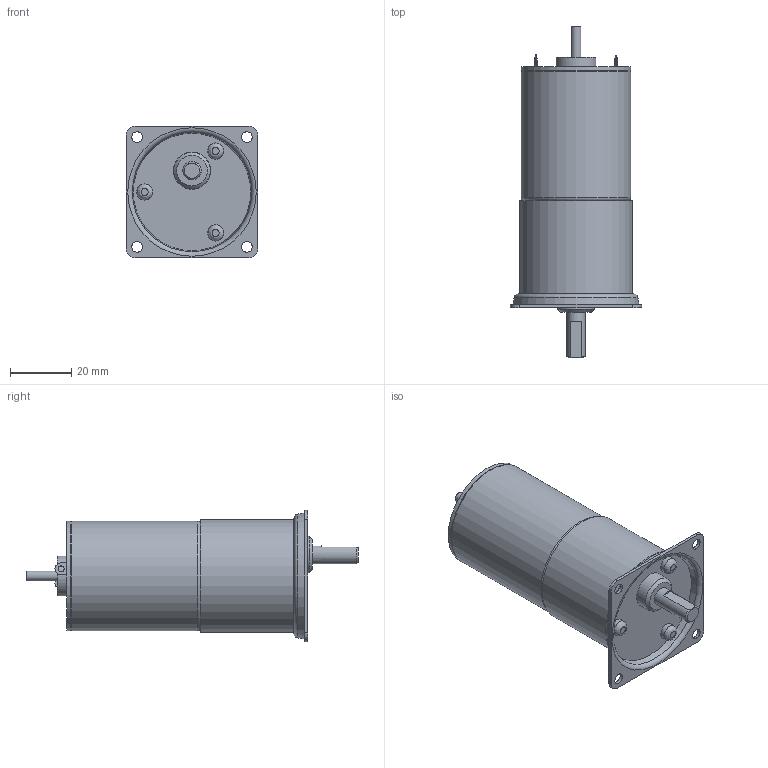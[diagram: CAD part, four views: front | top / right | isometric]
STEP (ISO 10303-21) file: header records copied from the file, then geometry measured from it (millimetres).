
FILE_DESCRIPTION((''),'2;1');
FILE_NAME('C:\Documents and Settings\SSEGAWA\デスクトップ\TP-3644L-PG-6.STP','2013-07-26T18:50:13',('SSEGAWA'),(''),'Autodesk Inventor 2010','Autodesk Inventor 2010','');
FILE_SCHEMA(('CONFIG_CONTROL_DESIGN'));
Length unit declared in the file: millimetre
Products named in the file (1): tp_3644l_pg_6_Shrinkwrap_1
Bounding box: 43 x 108.8 x 43 mm (x, y, z)
Volume: 80974.8 mm3; surface area: 15090.1 mm2
Topology: 1 solids, 12 shells, 105 faces, 209 edges, 139 vertices
Faces by surface type: plane 47, cylinder 27, bspline 23, torus 4, cone 4
Full cylindrical faces by diameter (mm): 3 x1, 3.175 x1, 3.5 x1, 4 x3, 5.3 x3, 6 x1, 12 x1, 12.2 x1, 13 x1, 35.6 x1, 36 x2, 37 x1
Entity records: 2825 total; most frequent: CARTESIAN_POINT 837, DIRECTION 397, ORIENTED_EDGE 278, AXIS2_PLACEMENT_3D 177, EDGE_LOOP 175, EDGE_CURVE 139, VERTEX_POINT 116, STYLED_ITEM 106
